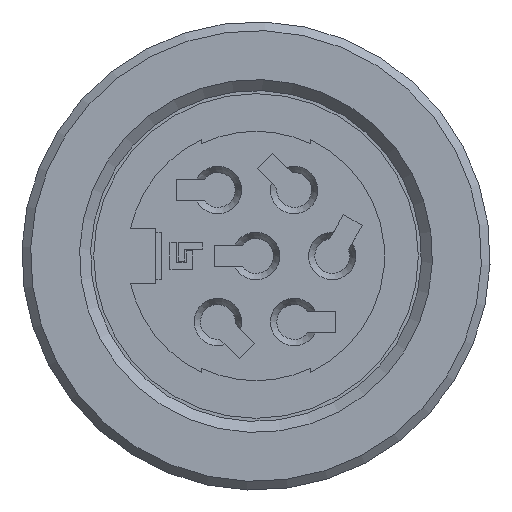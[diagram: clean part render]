
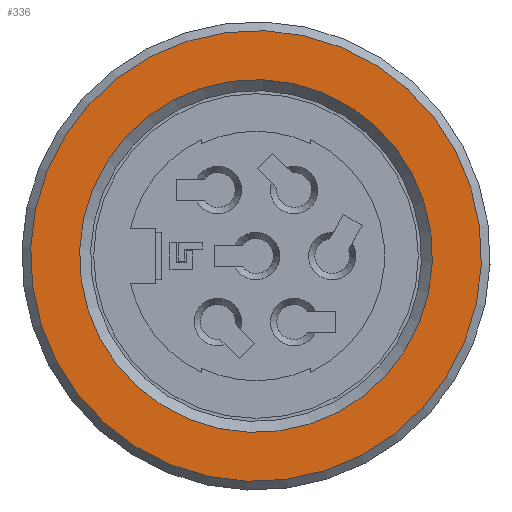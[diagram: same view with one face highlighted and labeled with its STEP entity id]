
A CAD part, left-side view. The second image highlights one B-rep face of the part: STEP entity #336.
In plain terms, the highlighted planar face has unit normal (-1, 0, 0).
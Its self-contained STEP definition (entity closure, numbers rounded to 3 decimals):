
#128=FACE_BOUND('',#694,.T.);
#129=FACE_BOUND('',#695,.T.);
#192=CIRCLE('',#2538,10.35);
#193=CIRCLE('',#2540,8.1);
#336=ADVANCED_FACE('',(#128,#129),#467,.T.);
#467=PLANE('',#2541);
#694=EDGE_LOOP('',(#1009));
#695=EDGE_LOOP('',(#1010));
#1009=ORIENTED_EDGE('',*,*,#1864,.T.);
#1010=ORIENTED_EDGE('',*,*,#1863,.F.);
#1609=VERTEX_POINT('',#3839);
#1610=VERTEX_POINT('',#3842);
#1863=EDGE_CURVE('',#1609,#1609,#192,.T.);
#1864=EDGE_CURVE('',#1610,#1610,#193,.T.);
#2538=AXIS2_PLACEMENT_3D('',#3838,#2937,#2938);
#2540=AXIS2_PLACEMENT_3D('',#3841,#2941,#2942);
#2541=AXIS2_PLACEMENT_3D('',#3843,#2943,#2944);
#2937=DIRECTION('',(1.,0.,0.));
#2938=DIRECTION('',(0.,-0.467,-0.884));
#2941=DIRECTION('',(1.,0.,0.));
#2942=DIRECTION('',(0.,0.467,0.884));
#2943=DIRECTION('',(-1.,0.,0.));
#2944=DIRECTION('',(0.,0.467,0.884));
#3838=CARTESIAN_POINT('',(-8.9,0.,0.));
#3839=CARTESIAN_POINT('',(-8.9,-4.831,-9.153));
#3841=CARTESIAN_POINT('',(-8.9,0.,0.));
#3842=CARTESIAN_POINT('',(-8.9,3.781,7.163));
#3843=CARTESIAN_POINT('',(-8.9,0.,0.));
